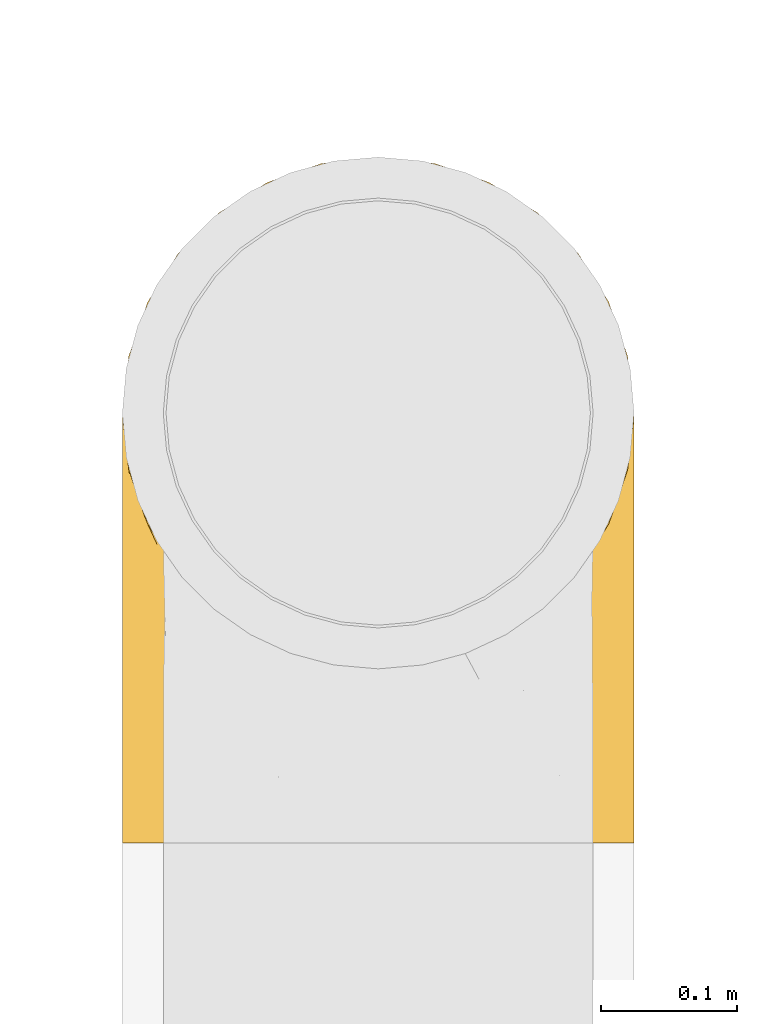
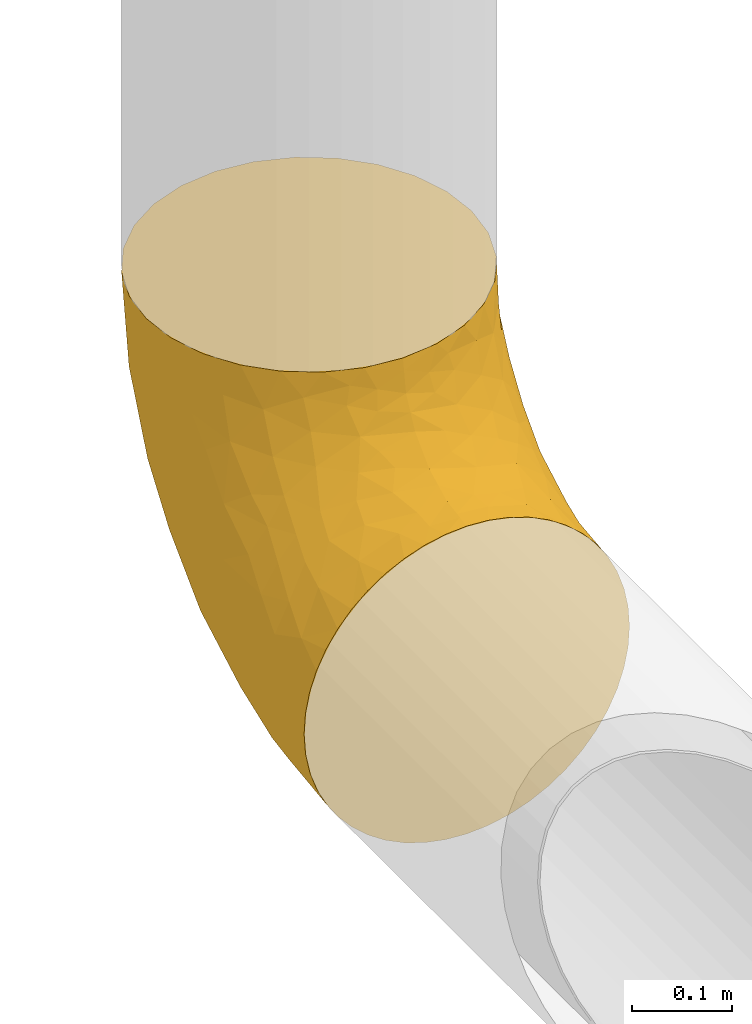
# One storey, part 6 of 21: 1 covering.
"""IFC2X3 building model written with IfcOpenShell, lengths in millimetres."""

from ifc_helpers import new_model, entity, si_unit, converted_unit, derived_unit, direction, frame, origin_with_axes, place, context, subcontext, project, spatial, open_shell, surface_model, source, transform, mapped, element, save


model = new_model("IFC2X3")

# Units and contexts
model_context = context("Model", 3, precision=0.01, world=frame((0.0, 4.29681676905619e-09, 0.0)), true_north=direction((4.01073788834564e-13, 1.0)))
plan_context = context("Plan", 3, precision=0.01, world=frame((0.0, 4.29681676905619e-09, 0.0)), true_north=direction((4.01073788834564e-13, 1.0)))
body_context = subcontext(model_context, "Body", "Model", "MODEL_VIEW")
ifc_project = project(units=[converted_unit("PLANEANGLEUNIT", "DEGREE", entity("IfcPositiveLengthMeasure", 0.0174532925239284), si_unit("PLANEANGLEUNIT", "RADIAN"), dimensions=[0, 0, 0, 0, 0, 0, 0]), si_unit("AREAUNIT", "SQUARE_METRE"), si_unit("LENGTHUNIT", "METRE", prefix="MILLI"), si_unit("MASSUNIT", "GRAM", prefix="KILO"), si_unit("POWERUNIT", "WATT"), si_unit("PRESSUREUNIT", "PASCAL"), si_unit("FORCEUNIT", "NEWTON", prefix="KILO"), si_unit("ELECTRICVOLTAGEUNIT", "VOLT"), si_unit("ELECTRICCURRENTUNIT", "AMPERE"), si_unit("THERMODYNAMICTEMPERATUREUNIT", "DEGREE_CELSIUS"), si_unit("TIMEUNIT", "SECOND"), si_unit("VOLUMEUNIT", "CUBIC_METRE"), derived_unit("LINEARVELOCITYUNIT", [(si_unit("LENGTHUNIT", "METRE"), 1), (si_unit("TIMEUNIT", "SECOND"), -1)]), derived_unit("VOLUMETRICFLOWRATEUNIT", [(si_unit("VOLUMEUNIT", "CUBIC_METRE"), 1), (si_unit("TIMEUNIT", "SECOND"), -1)]), derived_unit("THERMALTRANSMITTANCEUNIT", [(si_unit("POWERUNIT", "WATT"), 1), (si_unit("THERMODYNAMICTEMPERATUREUNIT", "KELVIN"), -1), (si_unit("AREAUNIT", "SQUARE_METRE"), -1)]), derived_unit("SOUNDPRESSUREUNIT", [(si_unit("PRESSUREUNIT", "PASCAL"), 1)])], contexts=[model_context, plan_context])

# Site, building, storey
site_placement = place(None, frame((0.0, -4.29681676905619e-09, 0.0), z_axis=(0.0, 0.0, 1.0), x_axis=(1.0, 0.0, 0.0)))
site = spatial("IfcSite", under=ifc_project, at=site_placement, Name="ENGM", CompositionType="ELEMENT")
building_placement = place(site_placement, frame((0.0, 4.29681676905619e-09, 0.0), z_axis=(0.0, 0.0, 1.0), x_axis=(1.0, 0.0, 0.0)))
building = spatial("IfcBuilding", under=site, at=building_placement, Name="TI", CompositionType="ELEMENT")
storey_placement = place(building_placement, frame((0.0, 0.0, 210900.0), z_axis=(0.0, 0.0, 1.0), x_axis=(1.0, 0.0, 0.0)))
storey = spatial("IfcBuildingStorey", under=building, at=storey_placement, Name="Nivå F", CompositionType="ELEMENT", Elevation=210900.0)

# Covering
shared_shape = source(origin_with_axes(), body_context, "Body", "SurfaceModel", [
    surface_model("IfcShellBasedSurfaceModel", [(71.7519, 315.0, 173.22793), (93.74847, 315.0, 162.38066), (114.14103, 315.0, 148.75509), (-93.75296, 315.0, 162.37804), (0.0, 315.0, 187.5), (24.47321, 315.0, 185.89598), (48.5277, 315.0, 181.11133), (148.75191, 315.0, 114.14517), (173.22595, 315.0, 71.75667), (181.11, 315.0, 48.53263), (185.89528, 315.0, 24.47835), (162.37804, 315.0, 93.75296), (132.58067, 315.0, 132.58437), (185.89598, 315.0, -24.47321), (-185.89598, 315.0, 24.47321), (-48.53263, 315.0, 181.11), (-71.75667, 315.0, 173.22595), (-173.22793, 315.0, 71.7519), (-114.14517, 315.0, 148.75191), (-132.58437, 315.0, 132.58067), (-162.38066, 315.0, 93.74847), (-148.75509, 315.0, 114.14103), (-181.11133, 315.0, 48.5277), (-181.11, 315.0, -48.53263), (-187.5, 315.0, 0.0), (187.5, 315.0, 0.0), (-114.14103, 315.0, -148.75509), (173.22793, 315.0, -71.7519), (181.11133, 315.0, -48.5277), (162.38066, 315.0, -93.74847), (148.75509, 315.0, -114.14103), (132.58437, 315.0, -132.58067), (0.0, 315.0, -187.5), (114.14517, 315.0, -148.75191), (71.75667, 315.0, -173.22595), (93.75296, 315.0, -162.37804), (48.53263, 315.0, -181.11), (24.47835, 315.0, -185.89528), (-148.75191, 315.0, -114.14517), (-173.22595, 315.0, -71.75667), (-132.58067, 315.0, -132.58437), (-162.37804, 315.0, -93.75296), (-185.89528, 315.0, -24.47835), (-48.5277, 315.0, -181.11133), (-24.47321, 315.0, -185.89598), (-71.7519, 315.0, -173.22793), (-93.74847, 315.0, -162.38066), (-315.0, 187.5, 0.0), (-315.0, 182.79898, -41.72268), (-315.0, 168.93166, -81.3532), (-315.0, 182.79898, 41.72268), (-315.0, 81.3532, -168.93166), (-315.0, 146.5934, -116.90434), (-315.0, 116.90434, -146.5934), (-315.0, 41.72268, -182.79898), (-315.0, 168.93166, 81.3532), (-315.0, 116.90434, 146.5934), (-315.0, 146.5934, 116.90434), (-315.0, 81.3532, 168.93166), (-315.0, 41.72268, 182.79898), (-315.0, -81.3532, 168.93166), (-315.0, 0.0, 187.5), (-315.0, -146.5934, -116.90434), (-315.0, 0.0, -187.5), (-315.0, -41.72268, -182.79898), (-315.0, -116.90434, -146.5934), (-315.0, -81.3532, -168.93166), (-315.0, -168.93166, -81.3532), (-315.0, -182.79898, -41.72268), (-315.0, -187.5, 0.0), (-315.0, -146.5934, 116.90434), (-315.0, -116.90434, 146.5934), (-315.0, -41.72268, 182.79898), (-315.0, -182.79898, 41.72268), (-315.0, -168.93166, 81.3532), (25.92309, -6.8628, 107.16879), (61.29228, -5.14796, 55.63689), (109.98861, 94.1536, 90.98483), (-236.39168, -181.31339, 0.0), (-217.71758, -173.79341, 39.08888), (85.20486, 106.03907, 128.57352), (100.94482, 217.67719, 150.24028), (60.76475, 137.57352, 158.26103), (-159.71896, -162.9059, 0.0), (-86.86977, -132.73078, 0.0), (-128.59812, -144.88207, 48.1093), (-33.41766, -94.79611, 44.2088), (-67.79874, -99.05163, 84.79314), (-19.63791, -91.53104, 0.0), (131.51114, 196.42755, 116.40956), (-32.905, -10.63186, 147.44447), (32.68411, 57.05821, 145.77907), (1.60821, 75.54234, 168.63596), (40.32116, -40.32116, 0.0), (123.81423, 81.83736, 45.42944), (-23.97795, 194.45472, 187.5), (-53.08707, 139.99538, 187.5), (-24.66802, 107.15089, 182.72099), (91.53104, 19.63791, 0.0), (-195.22551, -147.52722, 93.04667), (-215.22255, -60.06645, 172.65859), (-225.10272, -128.80073, 127.13584), (-192.28559, -17.30648, 183.34782), (-167.3797, -86.11534, 150.06224), (-139.99538, 53.08707, 187.5), (-194.45472, 23.97795, 187.5), (-71.84808, 28.66862, 177.42193), (-92.26137, 92.26137, 187.5), (144.37047, 171.34125, 86.58707), (-6.05264, 253.54655, 187.5), (30.4779, 189.10236, 179.94078), (-253.54655, 6.05264, 187.5), (-120.19523, -100.82838, 119.84738), (161.78796, 184.40744, 54.68178), (181.31339, 236.39168, 0.0), (132.73078, 86.86977, 0.0), (162.9059, 159.71896, 0.0), (2.34392, -55.92336, 71.93757), (-115.85817, -34.72629, 165.85765), (69.13715, 219.36306, 169.16671), (-42.32667, -62.13792, 111.98402), (-272.21594, 49.76461, 181.68439), (-106.80175, 144.13611, 181.85405), (-107.42466, 240.63181, 161.94166), (-86.23706, 275.97565, 168.16205), (-130.87021, 262.8569, 140.9681), (-231.74, 40.52851, 185.37057), (-161.21603, 210.41995, 136.04653), (-190.08264, 181.01526, 133.3443), (-158.9938, 181.01357, 152.30877), (-287.56691, 188.03772, 29.85574), (-265.65978, 194.27902, 32.93239), (-275.60033, 193.7403, 0.0), (-164.97292, 240.58664, 115.71736), (-159.89714, 279.56853, 104.16776), (-181.19274, 254.53241, 82.92772), (-69.22616, 183.63114, 183.94866), (-98.08182, 204.27725, 173.34963), (-268.97839, 138.48329, 132.58252), (-274.7696, 103.54908, 158.76079), (-226.84166, 118.03729, 159.10382), (-185.47478, 72.67536, 183.13306), (-239.94302, 73.31377, 176.97813), (-161.98719, 128.55335, 172.36343), (-137.36255, 98.54815, 184.20656), (-285.79794, 161.51407, 99.75601), (-296.62784, 179.90179, 56.89873), (-251.06249, 173.57242, 98.09697), (-275.79254, 182.66401, 61.92732), (-43.54539, 224.62691, 185.25984), (-71.90113, 238.91825, 177.54812), (-40.54851, 268.1817, 183.89637), (-186.3904, 294.88413, 31.54873), (-217.48278, 228.47072, 32.69321), (-201.63684, 245.53096, 44.90026), (-211.85033, 240.05739, 0.0), (-24.47835, 315.0, 185.89528), (-190.99715, 274.27628, 33.50963), (-181.0016, 284.3896, 60.26883), (-184.18098, 215.71209, 111.46682), (-215.86391, 215.86393, 67.83115), (-219.60244, 189.75933, 101.63496), (-202.79531, 257.82885, 0.0), (-193.7403, 275.60033, 0.0), (-222.85896, 157.56377, 132.58252), (-189.71366, 301.02354, 0.0), (-245.17313, 198.41514, 55.48097), (-196.00168, 232.03013, 79.24153), (-126.6497, 173.37041, 169.88563), (-208.07545, 95.24819, 173.69421), (-143.45591, 234.05245, 139.47065), (-231.0274, 212.85585, 41.85032), (-257.82885, 202.79531, 0.0), (-182.21088, 153.1644, 154.89498), (-133.33055, 208.02048, 155.89877), (-301.02354, 189.71366, 0.0), (-240.05739, 211.85033, 0.0), (-225.95385, 225.95385, 0.0), (-170.86757, 264.20555, -94.09673), (-170.11896, 291.10707, -82.93237), (-147.66244, 267.19577, -123.62946), (-287.56691, 188.03772, -29.85574), (-92.26137, 92.26137, -187.5), (-106.83372, 144.16236, -181.84366), (-53.08707, 139.99538, -187.5), (-109.15377, 269.41975, -155.90166), (-23.97795, 194.45472, -187.5), (-41.54249, 232.04757, -185.20639), (-6.05264, 253.54655, -187.5), (-223.22811, 157.3483, -132.58252), (-218.26633, 191.72896, -100.47687), (-184.22064, 182.17564, -136.45036), (-245.45273, 198.05935, -56.00196), (-265.65978, 194.27902, -32.93239), (-216.07636, 230.51124, -31.07604), (-296.62784, 179.90179, -56.89873), (-285.84674, 161.50479, -99.75601), (-269.19283, 138.42752, -132.58252), (-217.55998, 217.55998, -61.29249), (-191.13915, 275.44859, -30.65192), (-240.81016, 70.42884, -177.83437), (-231.31455, 39.12606, -185.58742), (-272.14874, 46.64197, -182.4455), (-251.19228, 173.52235, -98.0843), (-185.64359, 293.6673, -36.58382), (-183.31826, 275.59264, -60.2737), (-276.0293, 75.84491, -172.83614), (-274.8368, 103.53631, -158.76079), (-69.23383, 183.63525, -183.94695), (-139.43807, 180.08501, -162.47419), (-102.1832, 222.44434, -168.16434), (-144.7518, 225.28058, -141.90085), (-162.05061, 128.63064, -172.32057), (-185.46353, 72.6543, -183.13831), (-208.63825, 108.23496, -168.38338), (-194.45472, 23.97795, -187.5), (-190.62014, 295.30016, 0.0), (-139.99538, 53.08707, -187.5), (-137.3989, 98.59243, -184.19568), (-66.29301, 259.92914, -177.54975), (-199.7216, 214.15655, -94.68167), (-199.34552, 245.89656, -51.55319), (-178.2907, 233.61345, -104.17209), (-253.54655, 6.05264, -187.5), (-36.61642, 274.45247, -184.45048), (-241.46084, 122.68989, -152.48448), (-275.79256, 182.66401, -61.92732), (-231.66914, 214.78395, -32.48384), (-194.42667, 143.87848, -154.88975), (-159.34939, 198.32098, -143.67576), (-180.85787, 208.21883, -120.62617), (-165.45118, 158.72022, -159.42306), (-119.62427, -8.80516, -176.53417), (2.34354, -55.92372, -71.93752), (61.29213, -5.14781, -55.63758), (-33.41766, -94.79611, -44.2088), (-215.22255, -60.06645, -172.65859), (-167.3797, -86.11534, -150.06224), (-225.10272, -128.80073, -127.13584), (-230.67958, -27.16333, -183.73214), (46.58948, 59.04809, -137.00202), (25.93363, -6.84983, -107.17058), (-32.905, -10.63186, -147.44447), (-195.22551, -147.52722, -93.04667), (95.82395, 113.92854, -121.98854), (-43.71538, 86.90997, -183.30725), (131.94374, 198.46265, -116.53514), (156.79563, 223.31617, -87.89633), (109.99557, 94.16282, -90.98137), (-217.71758, -173.79341, -39.08888), (-40.66064, 37.59478, -171.78176), (14.33328, 114.21293, -173.6539), (43.31764, 102.04645, -157.44361), (-120.19523, -100.82838, -119.84738), (-128.59812, -144.88207, -48.1093), (34.78081, 211.5389, -180.77628), (-67.79874, -99.05163, -84.79314), (123.196, 82.62579, -48.95058), (60.66386, 177.50741, -167.10893), (88.4717, 160.93578, -146.60832), (-42.32019, -62.13214, -111.98521), (161.7918, 184.41654, -54.67757)], [open_shell([[[0, 1, 2]], [[3, 4, 0]], [[4, 5, 6]], [[4, 6, 0]], [[0, 2, 7]], [[8, 9, 10]], [[3, 7, 8]], [[7, 11, 8]], [[3, 0, 7]], [[2, 12, 7]], [[8, 13, 14]], [[15, 3, 16]], [[3, 17, 18]], [[19, 18, 17]], [[19, 20, 21]], [[19, 17, 20]], [[17, 14, 22]], [[3, 14, 17]], [[3, 8, 14]], [[14, 23, 24]], [[8, 10, 25]], [[13, 26, 14]], [[27, 13, 28]], [[27, 29, 30]], [[27, 30, 13]], [[31, 13, 30]], [[32, 13, 33]], [[34, 33, 35]], [[33, 36, 32]], [[36, 33, 34]], [[13, 31, 33]], [[37, 32, 36]], [[38, 39, 40]], [[39, 38, 41]], [[24, 23, 42]], [[40, 39, 26]], [[14, 39, 23]], [[43, 32, 44]], [[32, 43, 26]], [[26, 45, 46]], [[45, 26, 43]], [[39, 14, 26]], [[32, 26, 13]], [[25, 13, 8]], [[47, 48, 49]], [[50, 47, 49]], [[49, 51, 50]], [[52, 53, 51]], [[49, 52, 51]], [[50, 51, 54]], [[55, 56, 57]], [[56, 55, 50]], [[58, 56, 59]], [[59, 56, 50]], [[54, 59, 50]], [[59, 60, 61]], [[59, 54, 62]], [[62, 63, 64]], [[65, 64, 66]], [[62, 60, 59]], [[67, 68, 62]], [[62, 64, 65]], [[69, 62, 68]], [[60, 70, 71]], [[72, 61, 60]], [[73, 70, 62]], [[74, 70, 73]], [[70, 60, 62]], [[73, 62, 69]], [[54, 63, 62]], [[75, 76, 77]], [[78, 79, 73]], [[80, 81, 82]], [[83, 84, 85]], [[78, 73, 69]], [[86, 87, 85]], [[88, 86, 84]], [[89, 81, 80]], [[86, 85, 84]], [[90, 91, 92]], [[75, 80, 91]], [[93, 76, 86]], [[77, 76, 94]], [[79, 83, 85]], [[95, 96, 97]], [[76, 93, 98]], [[74, 99, 70]], [[60, 100, 72]], [[70, 99, 101]], [[61, 72, 102]], [[60, 71, 103]], [[74, 79, 99]], [[102, 104, 105]], [[106, 107, 104]], [[108, 8, 11]], [[100, 102, 72]], [[60, 103, 100]], [[81, 12, 2]], [[109, 95, 110]], [[111, 61, 102]], [[96, 107, 97]], [[90, 103, 112]], [[108, 89, 77]], [[12, 81, 89]], [[10, 113, 114]], [[94, 98, 115]], [[116, 113, 94]], [[71, 70, 101]], [[116, 114, 113]], [[87, 86, 117]], [[102, 118, 106]], [[9, 113, 10]], [[11, 7, 89]], [[9, 8, 113]], [[103, 71, 101]], [[112, 99, 87]], [[90, 118, 103]], [[25, 10, 114]], [[73, 79, 74]], [[108, 11, 89]], [[101, 112, 103]], [[109, 110, 5]], [[119, 6, 110]], [[81, 119, 82]], [[4, 109, 5]], [[89, 7, 12]], [[85, 87, 99]], [[92, 97, 106]], [[80, 77, 89]], [[110, 82, 119]], [[97, 107, 106]], [[5, 110, 6]], [[118, 102, 100]], [[102, 105, 111]], [[104, 102, 106]], [[0, 119, 1]], [[2, 1, 81]], [[103, 118, 100]], [[90, 112, 120]], [[115, 116, 94]], [[99, 112, 101]], [[118, 90, 106]], [[112, 87, 120]], [[91, 80, 82]], [[75, 77, 80]], [[1, 119, 81]], [[6, 119, 0]], [[93, 86, 88]], [[117, 86, 76]], [[92, 91, 82]], [[75, 91, 90]], [[110, 92, 82]], [[90, 92, 106]], [[92, 110, 97]], [[95, 97, 110]], [[117, 120, 87]], [[90, 120, 75]], [[76, 75, 117]], [[120, 117, 75]], [[94, 108, 77]], [[108, 113, 8]], [[94, 113, 108]], [[98, 94, 76]], [[83, 79, 78]], [[99, 79, 85]], [[111, 121, 61]], [[122, 107, 96]], [[123, 124, 125]], [[126, 121, 111]], [[111, 105, 126]], [[127, 128, 129]], [[130, 131, 132]], [[133, 134, 135]], [[121, 58, 59]], [[122, 136, 137]], [[138, 139, 140]], [[141, 142, 126]], [[18, 124, 3]], [[122, 143, 144]], [[57, 145, 55]], [[19, 134, 125]], [[50, 146, 130]], [[145, 147, 148]], [[148, 130, 146]], [[96, 95, 136]], [[136, 149, 150]], [[139, 138, 56]], [[149, 151, 150]], [[22, 14, 152]], [[57, 56, 138]], [[104, 107, 144]], [[134, 19, 21]], [[141, 105, 104]], [[122, 96, 136]], [[144, 141, 104]], [[125, 124, 18]], [[145, 57, 138]], [[153, 154, 155]], [[151, 124, 150]], [[15, 151, 156]], [[125, 18, 19]], [[157, 158, 152]], [[4, 156, 109]], [[159, 160, 161]], [[151, 16, 124]], [[154, 153, 160]], [[151, 15, 16]], [[147, 145, 138]], [[109, 156, 151]], [[20, 158, 134]], [[21, 20, 134]], [[22, 158, 17]], [[124, 123, 150]], [[162, 154, 157]], [[20, 17, 158]], [[135, 134, 158]], [[124, 16, 3]], [[163, 157, 152]], [[133, 159, 127]], [[140, 164, 138]], [[56, 58, 139]], [[14, 24, 165]], [[14, 165, 152]], [[147, 166, 148]], [[149, 109, 151]], [[154, 167, 135]], [[168, 122, 137]], [[169, 143, 140]], [[170, 123, 125]], [[150, 137, 136]], [[121, 139, 58]], [[139, 142, 140]], [[147, 138, 164]], [[146, 145, 148]], [[164, 161, 147]], [[147, 161, 166]], [[171, 160, 153]], [[166, 172, 131]], [[149, 136, 95]], [[150, 123, 137]], [[141, 169, 142]], [[173, 140, 143]], [[122, 144, 107]], [[141, 144, 143]], [[163, 152, 165]], [[22, 152, 158]], [[155, 154, 162]], [[135, 158, 157]], [[157, 163, 162]], [[135, 157, 154]], [[167, 159, 133]], [[128, 159, 161]], [[166, 161, 160]], [[128, 161, 164]], [[135, 167, 133]], [[143, 129, 173]], [[143, 168, 129]], [[123, 174, 137]], [[137, 174, 168]], [[129, 168, 174]], [[143, 122, 168]], [[127, 129, 174]], [[129, 128, 173]], [[128, 164, 173]], [[140, 173, 164]], [[127, 170, 133]], [[128, 127, 159]], [[170, 127, 174]], [[134, 133, 125]], [[123, 170, 174]], [[125, 133, 170]], [[175, 130, 132]], [[175, 47, 50]], [[109, 149, 95]], [[50, 130, 175]], [[131, 130, 148]], [[148, 166, 131]], [[50, 55, 146]], [[172, 166, 176]], [[172, 132, 131]], [[145, 146, 55]], [[141, 126, 105]], [[121, 126, 142]], [[121, 142, 139]], [[121, 59, 61]], [[171, 177, 176]], [[160, 171, 166]], [[171, 153, 177]], [[176, 166, 171]], [[153, 155, 177]], [[154, 160, 167]], [[160, 159, 167]], [[143, 169, 141]], [[140, 142, 169]], [[178, 179, 180]], [[132, 181, 175]], [[182, 183, 184]], [[185, 40, 26]], [[175, 181, 48]], [[186, 187, 188]], [[189, 190, 191]], [[192, 193, 172]], [[177, 155, 194]], [[195, 48, 181]], [[196, 197, 52]], [[190, 192, 198]], [[38, 179, 41]], [[199, 162, 163]], [[200, 201, 202]], [[197, 196, 203]], [[199, 204, 205]], [[63, 54, 202]], [[206, 207, 200]], [[184, 208, 186]], [[209, 210, 183]], [[51, 53, 207]], [[211, 185, 210]], [[179, 39, 41]], [[197, 53, 52]], [[212, 213, 214]], [[201, 213, 215]], [[211, 210, 209]], [[24, 42, 216]], [[189, 197, 203]], [[205, 204, 179]], [[180, 179, 38]], [[46, 185, 26]], [[38, 40, 180]], [[217, 218, 182]], [[219, 185, 46]], [[40, 185, 180]], [[216, 42, 204]], [[220, 221, 222]], [[204, 39, 179]], [[179, 178, 205]], [[204, 23, 39]], [[209, 183, 212]], [[163, 216, 199]], [[182, 218, 183]], [[208, 184, 183]], [[53, 197, 207]], [[187, 208, 210]], [[43, 219, 45]], [[219, 46, 45]], [[219, 210, 185]], [[201, 215, 223]], [[188, 224, 32]], [[224, 43, 44]], [[215, 213, 217]], [[224, 188, 187]], [[207, 197, 225]], [[52, 49, 196]], [[218, 213, 212]], [[23, 204, 42]], [[189, 203, 190]], [[214, 213, 200]], [[180, 222, 178]], [[221, 178, 222]], [[195, 196, 49]], [[196, 226, 203]], [[225, 214, 200]], [[206, 200, 202]], [[192, 203, 226]], [[203, 192, 190]], [[193, 226, 181]], [[176, 177, 227]], [[212, 214, 228]], [[211, 180, 185]], [[183, 210, 208]], [[187, 210, 219]], [[198, 220, 190]], [[229, 230, 211]], [[190, 220, 230]], [[228, 231, 212]], [[213, 218, 217]], [[183, 218, 212]], [[225, 200, 207]], [[214, 225, 228]], [[229, 211, 209]], [[222, 180, 211]], [[48, 47, 175]], [[208, 187, 186]], [[224, 187, 219]], [[43, 224, 219]], [[224, 44, 32]], [[197, 189, 225]], [[228, 225, 189]], [[189, 191, 228]], [[191, 229, 231]], [[193, 181, 132]], [[181, 226, 195]], [[176, 227, 172]], [[192, 226, 193]], [[193, 132, 172]], [[196, 195, 226]], [[49, 48, 195]], [[221, 199, 205]], [[221, 162, 199]], [[221, 205, 178]], [[177, 194, 227]], [[223, 63, 202]], [[155, 162, 221]], [[213, 201, 200]], [[223, 202, 201]], [[206, 54, 51]], [[54, 206, 202]], [[51, 207, 206]], [[191, 231, 228]], [[209, 212, 231]], [[199, 216, 204]], [[198, 227, 194]], [[155, 221, 194]], [[221, 198, 194]], [[198, 192, 227]], [[172, 227, 192]], [[221, 220, 198]], [[230, 229, 191]], [[231, 229, 209]], [[190, 230, 191]], [[220, 222, 230]], [[211, 230, 222]], [[232, 215, 217]], [[233, 234, 235]], [[236, 237, 66]], [[65, 237, 238]], [[63, 223, 239]], [[240, 241, 242]], [[232, 239, 215]], [[236, 64, 239]], [[62, 238, 243]], [[241, 240, 244]], [[237, 65, 66]], [[182, 184, 245]], [[246, 247, 248]], [[182, 245, 217]], [[244, 246, 248]], [[186, 245, 184]], [[243, 249, 67]], [[250, 251, 252]], [[78, 69, 68]], [[242, 253, 237]], [[243, 254, 249]], [[242, 232, 250]], [[255, 186, 188]], [[248, 234, 241]], [[78, 68, 249]], [[256, 235, 254]], [[232, 242, 237]], [[257, 116, 115]], [[246, 33, 31]], [[253, 243, 238]], [[84, 254, 235]], [[30, 29, 247]], [[255, 245, 186]], [[253, 238, 237]], [[188, 32, 37]], [[251, 258, 252]], [[255, 37, 36]], [[188, 37, 255]], [[64, 63, 239]], [[35, 258, 34]], [[35, 33, 259]], [[62, 65, 238]], [[259, 33, 246]], [[66, 64, 236]], [[243, 67, 62]], [[251, 255, 258]], [[241, 260, 242]], [[259, 258, 35]], [[256, 254, 243]], [[88, 84, 235]], [[257, 234, 248]], [[234, 98, 93]], [[257, 98, 234]], [[30, 246, 31]], [[114, 116, 261]], [[84, 83, 254]], [[27, 261, 247]], [[246, 30, 247]], [[28, 13, 261]], [[250, 245, 251]], [[13, 25, 114]], [[34, 255, 36]], [[256, 253, 260]], [[261, 13, 114]], [[251, 245, 255]], [[27, 28, 261]], [[217, 245, 232]], [[257, 248, 261]], [[83, 78, 249]], [[232, 245, 250]], [[232, 237, 236]], [[235, 93, 88]], [[243, 253, 256]], [[233, 235, 256]], [[93, 235, 234]], [[34, 258, 255]], [[252, 259, 240]], [[215, 239, 223]], [[232, 236, 239]], [[242, 260, 253]], [[233, 260, 241]], [[260, 233, 256]], [[241, 234, 233]], [[242, 250, 252]], [[244, 240, 259]], [[259, 252, 258]], [[252, 240, 242]], [[246, 244, 259]], [[241, 244, 248]], [[27, 247, 29]], [[248, 247, 261]], [[116, 257, 261]], [[98, 257, 115]], [[249, 68, 67]], [[83, 249, 254]], [[15, 4, 3]], [[156, 4, 15]]])]),
])
covering_placement = place(storey_placement, frame((605819.77046, 697101.72271, 2446.77402000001), z_axis=(-1.0, 0.0, 0.0), x_axis=(0.0, 0.0, -1.0)))
element("IfcCovering", 1, at=covering_placement, inside=storey, Name="B-EI60", PredefinedType="INSULATION", context=body_context, shape_type="MappedRepresentation", body=[
    mapped(shared_shape, transform((0.0, 0.0, 0.0), scale=1.0)),
])

save(model, "model.ifc")
